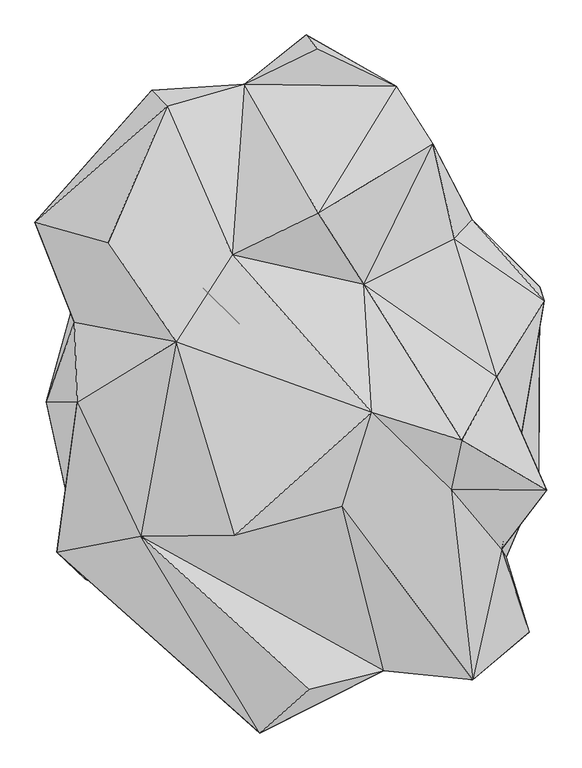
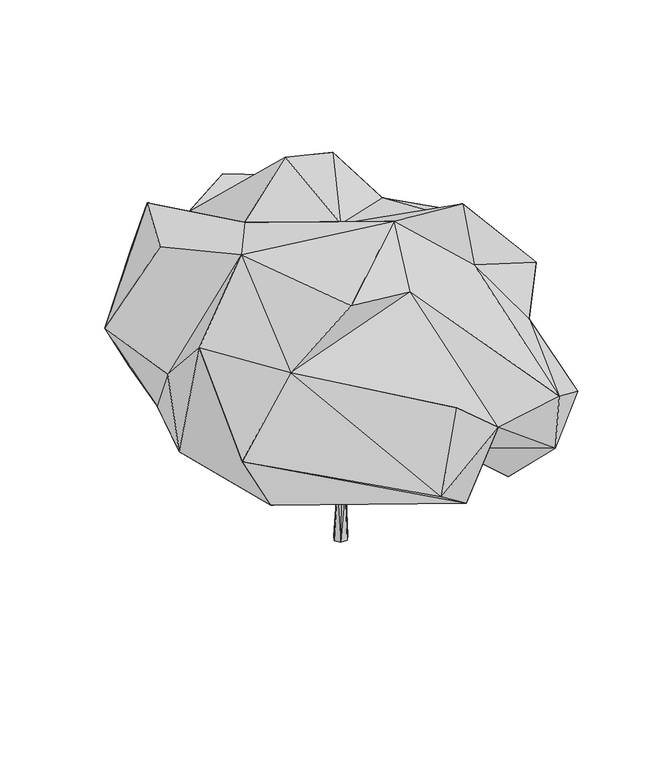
"""IFC4 building model written with IfcOpenShell, lengths in millimetres: geographic element geometry, Enscape AssetDefinition - Evergreen Tree 022 Ficus : Enscape AssetDefinition - Evergreen Tree 022 Ficus 2."""

from ifc_helpers import new_model, si_unit, origin, place, context, project, spatial, triangles, source, transform, mapped, element, save


def geographic_element_5156a3a1(model_context):
    return source(origin(), model_context, "Body", "Tessellation", [
        triangles([(71.1303376, -38.5746304, 227.5141651), (133.9658054, -78.6524484, 376.6537537), (362.3663627, -374.3006996, 832.4347996), (139.9140343, -61.6231599, 376.0889262), (55.9362841, -14.6064395, 243.0045895), (53.6599696, -24.0484549, 238.1277433), (60.7950355, -33.2803655, 231.4893949), (355.0072915, -364.9853162, 841.8324818), (144.1216263, -82.0920005, 367.0782117), (85.2627462, -21.7582127, 225.3728169), (70.4680279, -3.5517934, 238.8832931), (370.3780466, -357.9017369, 838.9897774), (373.7006636, -366.0316549, 832.2664959), (154.0965353, -71.7970438, 368.7700779), (-29.9226262, 26.4202328, 418.4123966), (74.1176689, -20.9609503, 259.2700393), (58.8623864, -27.8942798, 267.3150969), (2.482999, -153.3120265, 411.8310396), (-47.438924, 23.0975704, 428.3929284), (-42.1084808, 37.5653124, 429.8956347), (-117.7865423, 90.1239048, 506.2317819), (-181.0964679, 125.1397544, 572.5875063), (-122.4727479, 88.3387485, 490.7427927), (-66.7320096, 33.1782415, 421.4331425), (-51.4892808, 40.1115733, 408.1661834), (59.7000124, -14.8888941, 246.0030438), (56.1672566, -26.0423307, 243.9771864), (-118.9066047, 74.5639171, 504.7875386), (-132.8720586, 79.7566052, 499.9510606), (-184.9283924, 111.4205882, 575.4036498), (-175.4098419, 110.4285339, 584.517374), (-290.4853214, 219.7449446, 756.1308815), (-277.1097752, 227.2654158, 763.5025246), (-283.543594, 233.5489712, 754.2719833), (-169.2306587, 121.7656144, 580.4071598), (66.3258389, -34.2668719, 253.2703146), (44.0593247, -106.6153401, 350.2186303), (27.2373364, -110.7909209, 342.380882), (38.5493912, -114.5003875, 343.5120993), (33.1563496, -97.3709007, 351.1703527), (105.1653014, -359.4182868, 866.2164585), (27.3556068, -152.5857263, 420.2587592), (21.0748514, -142.9683628, 419.895591), (106.7361721, -373.3114431, 863.3140194), (91.1970588, -361.2674835, 862.9146978), (8.1877258, -152.870956, 434.0961413), (-218.141009, -391.3772372, 672.9543451), (93.8782814, -375.0297976, 860.0471403), (-225.536288, -388.158938, 668.9596762), (8.8305503, -170.7991131, 422.898242), (-225.4750817, -395.7754789, 663.5972128), (14.8566888, -166.5929018, 431.6987949), (74.4571603, -9.75881, 226.2563567), (393.7256767, -16.5740247, 805.6575823), (402.6555822, -30.927668, 800.9129591), (64.9413985, -35.2269332, 234.7925726), (80.9911592, -28.5398754, 225.0834269), (56.8017382, -10.4934695, 235.5314083), (54.7062856, -25.6109935, 238.4130093), (388.1823014, -29.9314329, 809.1512644), (-51.5685774, 212.3205068, 561.4744855), (59.2269354, 110.82791, 340.3356216), (-32.18782, 213.5393459, 568.6679781), (43.5695517, 120.4800461, 354.0658882), (57.5572608, -29.2856738, 246.4162999), (76.0878884, -27.9067995, 247.3067797), (53.1047891, -16.0674002, 227.4932907), (51.9749798, -21.4256748, 237.0341509), (23.050637, 151.4566891, 379.4338529), (46.5123544, 144.094802, 351.7715152), (-51.3556998, 217.1528063, 584.9709801), (-41.7508809, 247.4755194, 601.7234096), (-41.7411522, 220.5185892, 556.70748), (67.2413808, 423.8544336, 835.3766258), (-31.0747066, 227.2877436, 583.2734456), (-31.9248387, 238.1211485, 616.2426178), (61.5575253, 414.9592644, 843.6163118), (53.6808304, 422.2584918, 840.3897646), (83.0198145, -17.4587999, 234.1720254), (70.3859381, -10.6006032, 222.5246441), (101.2471085, -22.746043, -6.1e-06), (71.891424, 0.8658868, 252.2741), (83.3342666, -50.4070068, -1.35e-05), (76.8086202, 7.123064, 1.9e-06), (92.7637782, -19.7323484, 255.4937799), (48.9876576, 3.9367663, 1.1e-06), (60.9049625, -3.8133806, 255.6454604), (51.403126, -21.8792718, 255.5257729), (34.738357, -22.746043, -6.1e-06), (79.7876081, -38.7457773, 253.939587), (66.0489572, -39.9451635, 255.9529271), (52.6567605, -49.9812424, -1.34e-05), (-481.3194943, -549.7183717, 1367.1191689), (-183.556474, -546.8062675, 1605.3556446), (-681.643059, -125.3938904, 1308.0435596), (51.7732297, -1032.6344982, 1290.403212), (-104.3665039, -1171.3288668, 971.0136229), (97.1661349, -1032.5759989, 782.1983311), (-745.7182903, -600.4359881, 1029.672179), (-194.7502311, -452.6932257, 569.7405144), (199.1388259, -726.938986, 848.2786726), (-529.8347016, -330.8417971, 727.2994291), (-656.6786671, -684.8492586, 825.6058559), (-690.2669512, 126.0830199, 1021.6717953), (-779.6669449, -124.7133451, 804.9409836), (-681.8447908, 231.1766232, 789.2085863), (-127.6376307, -245.4058964, 854.5442785), (580.6055125, -635.2889116, 632.0292269), (551.6004516, -1000.373386, 887.0274702), (407.7690419, -850.4921276, 701.1800932), (438.3143432, 415.4211185, 850.4579), (492.8139599, -226.4466976, 798.2177021), (110.8686415, -46.7673352, 805.5198), (776.9329548, -375.5974228, 765.7772404), (674.1254219, -615.2460217, 967.2818739), (746.0259024, -852.3594555, 1024.0119141), (567.7921595, -1003.7449099, 1151.6181513), (287.0695597, -974.2165524, 1072.5618576), (156.2559783, -455.3427006, 1504.1439445), (500.0520355, -401.3218337, 1490.6418617), (249.8427077, -157.3877588, 1653.7207157), (802.0226297, -404.4398483, 1399.9296661), (-367.8775452, 65.0576069, 1562.8486462), (532.9167446, -246.5094991, 1700.000013), (223.1153602, 246.7392453, 1405.6637638), (510.0589465, 391.1300503, 1350.9919556), (659.5297285, -590.4541846, 1269.1162846), (644.1395342, -46.013366, 1457.5629215), (794.1445496, 194.7734128, 1299.2122673), (566.3005717, 451.2494911, 1109.7167845), (779.4389065, 238.9086004, 899.4961132), (441.9208454, 691.4392633, 1427.5130116), (326.6463773, 873.136167, 1239.2920876), (80.4276489, 470.2712588, 1664.1841759), (76.8726334, 991.2171862, 1263.8667503), (41.8859608, 1034.5258799, 655.4620989), (-84.3819043, 547.6164651, 636.415151), (-153.1391627, 879.3737949, 1216.4188471), (-397.7369144, 808.7661861, 1390.2279327), (-191.694749, 340.3022661, 1500.9522789), (-815.2644814, 442.8121064, 1111.9875034), (-273.0900533, 439.0540146, 795.4864735), (-446.3008106, 859.4882355, 1144.2567547), (-275.1187085, 697.8384367, 720.1300266), (-655.2566608, 514.5289135, 813.3159811), (-582.9721559, 378.5489868, 1489.7891521), (309.7047878, 841.3499531, 718.348958)], [[101, 109, 118], [101, 110, 109], [113, 147, 111], [123, 146, 104], [106, 104, 141], [146, 141, 104], [141, 145, 106], [145, 142, 106], [106, 142, 113], [137, 113, 142], [137, 147, 113], [142, 144, 137], [144, 142, 143], [145, 141, 143], [145, 143, 142], [139, 143, 141], [139, 141, 146], [140, 146, 123], [139, 146, 140], [139, 138, 143], [143, 138, 144], [138, 139, 140], [147, 137, 136], [138, 135, 136], [136, 137, 144], [136, 144, 138], [138, 133, 135], [136, 135, 133], [133, 147, 136], [133, 138, 134], [138, 140, 134], [134, 132, 133], [133, 132, 147], [130, 111, 147], [130, 131, 111], [147, 132, 130], [129, 131, 130], [129, 127, 131], [129, 130, 126], [132, 126, 130], [132, 134, 125], [125, 134, 140], [132, 125, 126], [126, 128, 129], [127, 129, 128], [128, 126, 125], [128, 122, 127], [124, 122, 128], [128, 125, 124], [140, 123, 121], [121, 124, 125], [121, 125, 140], [123, 94, 121], [122, 120, 127], [120, 124, 121], [122, 124, 120], [119, 120, 121], [119, 121, 94], [117, 120, 119], [118, 109, 117], [127, 120, 117], [119, 118, 117], [116, 117, 109], [127, 117, 116], [115, 127, 116], [116, 109, 115], [114, 127, 115], [114, 131, 127], [111, 112, 113], [112, 111, 131], [112, 131, 114], [110, 108, 109], [110, 101, 108], [115, 108, 114], [115, 109, 108], [114, 108, 112], [107, 113, 112], [112, 108, 107], [107, 108, 101], [101, 100, 107], [113, 107, 102], [107, 100, 102], [106, 113, 102], [105, 104, 106], [105, 106, 102], [105, 95, 104], [95, 123, 104], [103, 99, 95], [102, 103, 105], [105, 103, 95], [100, 103, 102], [98, 99, 103], [98, 101, 118], [100, 101, 98], [98, 103, 100], [99, 98, 97], [97, 98, 118], [118, 96, 97], [96, 118, 93], [95, 99, 93], [95, 93, 123], [94, 123, 93], [93, 119, 94], [96, 93, 97], [119, 93, 118], [93, 99, 97], [90, 91, 92], [90, 92, 83], [88, 89, 92], [88, 92, 91], [88, 87, 86], [88, 86, 89], [82, 84, 86], [82, 86, 87], [81, 85, 90], [81, 84, 82], [81, 90, 83], [81, 82, 85], [70, 80, 67], [70, 79, 80], [62, 66, 79], [62, 79, 70], [70, 63, 62], [78, 71, 76], [76, 77, 78], [63, 76, 71], [76, 63, 75], [76, 75, 74], [76, 74, 77], [71, 78, 72], [74, 72, 78], [74, 73, 72], [73, 75, 63], [74, 75, 73], [70, 73, 63], [73, 61, 72], [71, 72, 61], [73, 70, 69], [61, 73, 69], [70, 67, 69], [69, 67, 68], [69, 64, 61], [64, 65, 66], [66, 62, 64], [64, 62, 63], [71, 64, 63], [64, 69, 68], [71, 61, 64], [64, 68, 65], [58, 59, 60], [59, 56, 60], [58, 60, 54], [58, 54, 53], [55, 57, 53], [56, 55, 60], [57, 55, 56], [55, 53, 54], [52, 44, 48], [47, 50, 52], [50, 51, 18], [47, 51, 50], [18, 51, 49], [48, 45, 46], [46, 49, 47], [47, 52, 46], [46, 52, 48], [18, 49, 46], [45, 41, 46], [41, 43, 46], [40, 46, 43], [46, 40, 18], [44, 52, 42], [40, 43, 42], [42, 43, 41], [42, 41, 44], [52, 50, 42], [40, 42, 37], [37, 16, 40], [37, 42, 39], [39, 42, 50], [50, 18, 38], [39, 50, 38], [39, 38, 36], [37, 39, 36], [37, 36, 16], [26, 16, 27], [38, 27, 36], [36, 27, 16], [22, 34, 35], [33, 35, 34], [22, 32, 34], [31, 33, 32], [33, 31, 35], [31, 28, 35], [22, 30, 32], [30, 31, 32], [28, 31, 30], [22, 29, 30], [28, 30, 29], [28, 29, 24], [25, 26, 27], [16, 26, 25], [27, 24, 25], [22, 23, 29], [23, 25, 24], [24, 29, 23], [21, 23, 22], [28, 21, 35], [21, 22, 35], [21, 20, 23], [20, 16, 25], [23, 20, 25], [28, 20, 21], [19, 28, 24], [19, 20, 28], [15, 16, 20], [19, 15, 20], [17, 18, 40], [15, 19, 17], [40, 16, 17], [27, 38, 17], [17, 19, 24], [15, 17, 16], [18, 17, 38], [17, 24, 27], [13, 3, 9], [4, 8, 12], [11, 5, 4], [14, 13, 9], [12, 13, 14], [4, 12, 14], [14, 11, 4], [14, 10, 11], [9, 10, 14], [9, 1, 10], [2, 3, 8], [2, 6, 7], [5, 6, 2], [4, 5, 2], [2, 7, 1], [9, 3, 2], [2, 8, 4], [2, 1, 9]], closed=False),
    ])


if __name__ == "__main__":
    model = new_model("IFC4")
    model_context = context("Model", 3, world=origin())
    ifc_project = project(units=[si_unit("LENGTHUNIT", "METRE", prefix="MILLI")], contexts=[model_context])
    site = spatial("IfcSite", under=ifc_project)
    building = spatial("IfcBuilding", under=site)
    placement = place(None, origin())
    geographic_element_shape = geographic_element_5156a3a1(model_context)
    element("IfcGeographicElement", 1, ObjectType="Enscape AssetDefinition - Evergreen Tree 022 Ficus : Enscape AssetDefinition - Evergreen Tree 022 Ficus 2", at=placement, inside=building, context=model_context, shape_type="MappedRepresentation", body=[
        mapped(geographic_element_shape, transform((0.0, 0.0, 0.0), x_axis=(1.0, 0.0, 0.0), y_axis=(0.0, 1.0, 0.0), z_axis=(0.0, 0.0, 1.0))),
    ])
    save(model, "model.ifc")
